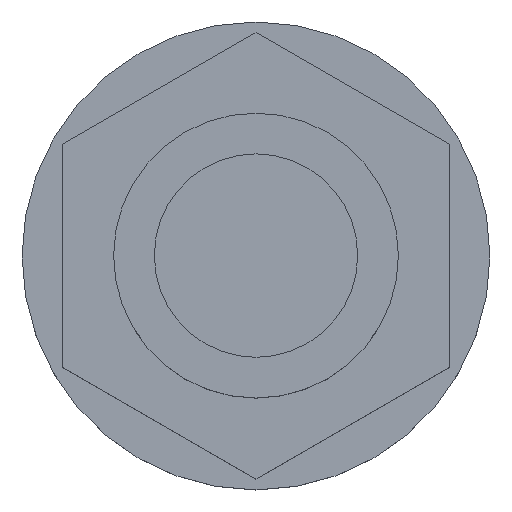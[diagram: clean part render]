
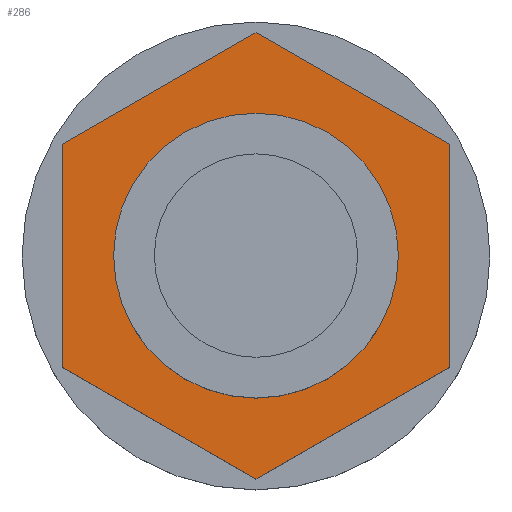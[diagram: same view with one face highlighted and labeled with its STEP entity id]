
A CAD part, top view. The second image highlights one B-rep face of the part: STEP entity #286.
In plain terms, the highlighted planar face has unit normal (0, 0, 1) as drawn and (-1, 0, 0) by its records, which use the part's own axes.
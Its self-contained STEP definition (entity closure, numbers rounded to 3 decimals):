
#56 = VERTEX_POINT ( 'NONE', #898 ) ;
#123 = EDGE_CURVE ( 'NONE', #56, #124, #1183, .T. ) ;
#124 = VERTEX_POINT ( 'NONE', #1199 ) ;
#128 = ORIENTED_EDGE ( 'NONE', *, *, #129, .T. ) ;
#129 = EDGE_CURVE ( 'NONE', #301, #306, #1193, .T. ) ;
#157 = ORIENTED_EDGE ( 'NONE', *, *, #158, .T. ) ;
#158 = EDGE_CURVE ( 'NONE', #306, #159, #1133, .T. ) ;
#159 = VERTEX_POINT ( 'NONE', #1129 ) ;
#160 = ORIENTED_EDGE ( 'NONE', *, *, #161, .T. ) ;
#161 = EDGE_CURVE ( 'NONE', #159, #162, #1128, .T. ) ;
#162 = VERTEX_POINT ( 'NONE', #1124 ) ;
#244 = EDGE_LOOP ( 'NONE', ( #245, #305 ) ) ;
#245 = ORIENTED_EDGE ( 'NONE', *, *, #123, .F. ) ;
#247 = EDGE_CURVE ( 'NONE', #124, #56, #1222, .T. ) ;
#286 = ADVANCED_FACE ( 'NONE', ( #460, #459 ), #458, .T. ) ;
#294 = EDGE_LOOP ( 'NONE', ( #295, #299, #128, #157, #160, #303 ) ) ;
#295 = ORIENTED_EDGE ( 'NONE', *, *, #296, .T. ) ;
#296 = EDGE_CURVE ( 'NONE', #297, #298, #320, .T. ) ;
#297 = VERTEX_POINT ( 'NONE', #316 ) ;
#298 = VERTEX_POINT ( 'NONE', #315 ) ;
#299 = ORIENTED_EDGE ( 'NONE', *, *, #300, .T. ) ;
#300 = EDGE_CURVE ( 'NONE', #298, #301, #314, .T. ) ;
#301 = VERTEX_POINT ( 'NONE', #310 ) ;
#303 = ORIENTED_EDGE ( 'NONE', *, *, #304, .T. ) ;
#304 = EDGE_CURVE ( 'NONE', #162, #297, #332, .T. ) ;
#305 = ORIENTED_EDGE ( 'NONE', *, *, #247, .F. ) ;
#306 = VERTEX_POINT ( 'NONE', #328 ) ;
#310 = CARTESIAN_POINT ( 'NONE',  ( 4., 5.485, -9.5 ) ) ;
#311 = DIRECTION ( 'NONE',  ( 0., -0.5, -0.866 ) ) ;
#312 = VECTOR ( 'NONE', #311, 1000. ) ;
#313 = CARTESIAN_POINT ( 'NONE',  ( 4., 10.97, 0. ) ) ;
#314 = LINE ( 'NONE', #313, #312 ) ;
#315 = CARTESIAN_POINT ( 'NONE',  ( 4., 10.97, 0. ) ) ;
#316 = CARTESIAN_POINT ( 'NONE',  ( 4., 5.485, 9.5 ) ) ;
#317 = DIRECTION ( 'NONE',  ( 0., 0.5, -0.866 ) ) ;
#318 = VECTOR ( 'NONE', #317, 1000. ) ;
#319 = CARTESIAN_POINT ( 'NONE',  ( 4., 5.485, 9.5 ) ) ;
#320 = LINE ( 'NONE', #319, #318 ) ;
#328 = CARTESIAN_POINT ( 'NONE',  ( 4., -5.485, -9.5 ) ) ;
#329 = DIRECTION ( 'NONE',  ( 0., 1., 0. ) ) ;
#330 = VECTOR ( 'NONE', #329, 1000. ) ;
#331 = CARTESIAN_POINT ( 'NONE',  ( 4., -5.485, 9.5 ) ) ;
#332 = LINE ( 'NONE', #331, #330 ) ;
#454 = DIRECTION ( 'NONE',  ( 0., -1., 0. ) ) ;
#455 = DIRECTION ( 'NONE',  ( -1., 0., 0. ) ) ;
#456 = CARTESIAN_POINT ( 'NONE',  ( 4., 10.97, 0. ) ) ;
#457 = AXIS2_PLACEMENT_3D ( 'NONE', #456, #455, #454 ) ;
#458 = PLANE ( 'NONE',  #457 ) ;
#459 = FACE_BOUND ( 'NONE', #244, .T. ) ;
#460 = FACE_OUTER_BOUND ( 'NONE', #294, .T. ) ;
#898 = CARTESIAN_POINT ( 'NONE',  ( 4., 7., 0. ) ) ;
#1124 = CARTESIAN_POINT ( 'NONE',  ( 4., -5.485, 9.5 ) ) ;
#1125 = DIRECTION ( 'NONE',  ( 0., 0.5, 0.866 ) ) ;
#1126 = VECTOR ( 'NONE', #1125, 1000. ) ;
#1127 = CARTESIAN_POINT ( 'NONE',  ( 4., -10.97, 0. ) ) ;
#1128 = LINE ( 'NONE', #1127, #1126 ) ;
#1129 = CARTESIAN_POINT ( 'NONE',  ( 4., -10.97, 0. ) ) ;
#1130 = DIRECTION ( 'NONE',  ( 0., -0.5, 0.866 ) ) ;
#1131 = VECTOR ( 'NONE', #1130, 1000. ) ;
#1132 = CARTESIAN_POINT ( 'NONE',  ( 4., -5.485, -9.5 ) ) ;
#1133 = LINE ( 'NONE', #1132, #1131 ) ;
#1182 = CARTESIAN_POINT ( 'NONE',  ( 4., 0., 0. ) ) ;
#1183 = CIRCLE ( 'NONE', #1202, 7. ) ;
#1190 = DIRECTION ( 'NONE',  ( 0., -1., 0. ) ) ;
#1191 = VECTOR ( 'NONE', #1190, 1000. ) ;
#1192 = CARTESIAN_POINT ( 'NONE',  ( 4., 5.485, -9.5 ) ) ;
#1193 = LINE ( 'NONE', #1192, #1191 ) ;
#1199 = CARTESIAN_POINT ( 'NONE',  ( 4., -7., 0. ) ) ;
#1200 = DIRECTION ( 'NONE',  ( 0., -1., 0. ) ) ;
#1201 = DIRECTION ( 'NONE',  ( -1., 0., 0. ) ) ;
#1202 = AXIS2_PLACEMENT_3D ( 'NONE', #1182, #1201, #1200 ) ;
#1218 = DIRECTION ( 'NONE',  ( 0., -1., 0. ) ) ;
#1219 = DIRECTION ( 'NONE',  ( -1., 0., 0. ) ) ;
#1220 = CARTESIAN_POINT ( 'NONE',  ( 4., 0., 0. ) ) ;
#1221 = AXIS2_PLACEMENT_3D ( 'NONE', #1220, #1219, #1218 ) ;
#1222 = CIRCLE ( 'NONE', #1221, 7. ) ;
